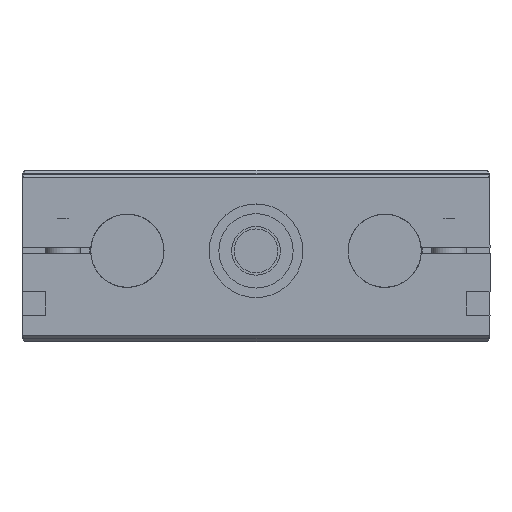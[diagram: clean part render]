
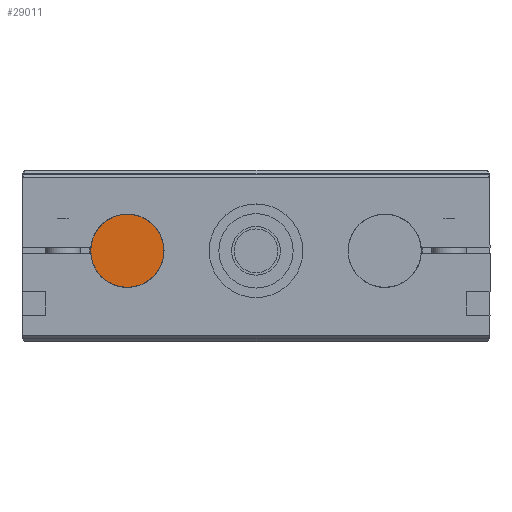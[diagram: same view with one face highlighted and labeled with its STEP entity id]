
A CAD part, top view. The second image highlights one B-rep face of the part: STEP entity #29011.
In plain terms, the highlighted planar face has unit normal (0, 0, 1) as drawn and (1, 0, 0) by its records, which use the part's own axes.
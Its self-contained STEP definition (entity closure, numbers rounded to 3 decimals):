
#1965 = DIRECTION ( 'NONE',  ( 0., 0., -1. ) ) ;
#8448 = CARTESIAN_POINT ( 'NONE',  ( 315., 30., 44. ) ) ;
#8536 = EDGE_LOOP ( 'NONE', ( #26347, #13609 ) ) ;
#8916 = EDGE_CURVE ( 'NONE', #15450, #15023, #25853, .T. ) ;
#10056 = PLANE ( 'NONE',  #24312 ) ;
#13609 = ORIENTED_EDGE ( 'NONE', *, *, #8916, .T. ) ;
#15023 = VERTEX_POINT ( 'NONE', #18975 ) ;
#15450 = VERTEX_POINT ( 'NONE', #40313 ) ;
#18975 = CARTESIAN_POINT ( 'NONE',  ( 315., 30., 31.5 ) ) ;
#24312 = AXIS2_PLACEMENT_3D ( 'NONE', #40686, #24733, #60105 ) ;
#24733 = DIRECTION ( 'NONE',  ( 1., 0., 0. ) ) ;
#25853 = CIRCLE ( 'NONE', #61481, 12.5 ) ;
#26347 = ORIENTED_EDGE ( 'NONE', *, *, #62076, .T. ) ;
#27742 = AXIS2_PLACEMENT_3D ( 'NONE', #8448, #27921, #47368 ) ;
#27921 = DIRECTION ( 'NONE',  ( 1., 0., 0. ) ) ;
#29011 = ADVANCED_FACE ( 'NONE', ( #40373 ), #10056, .T. ) ;
#40241 = CARTESIAN_POINT ( 'NONE',  ( 315., 30., 44. ) ) ;
#40313 = CARTESIAN_POINT ( 'NONE',  ( 315., 30., 56.5 ) ) ;
#40373 = FACE_OUTER_BOUND ( 'NONE', #8536, .T. ) ;
#40686 = CARTESIAN_POINT ( 'NONE',  ( 315., 30., 44. ) ) ;
#47368 = DIRECTION ( 'NONE',  ( 0., 0., -1. ) ) ;
#55516 = DIRECTION ( 'NONE',  ( 1., 0., 0. ) ) ;
#60105 = DIRECTION ( 'NONE',  ( 0., 0., -1. ) ) ;
#60303 = CIRCLE ( 'NONE', #27742, 12.5 ) ;
#61481 = AXIS2_PLACEMENT_3D ( 'NONE', #40241, #55516, #1965 ) ;
#62076 = EDGE_CURVE ( 'NONE', #15023, #15450, #60303, .T. ) ;
